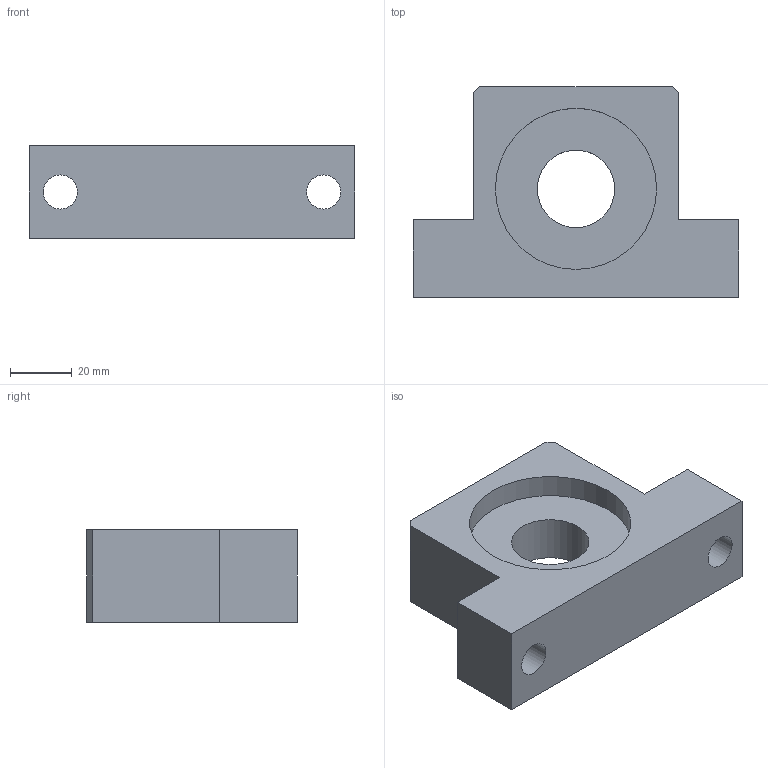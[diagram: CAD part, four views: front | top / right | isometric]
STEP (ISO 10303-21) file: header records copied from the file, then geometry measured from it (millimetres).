
FILE_DESCRIPTION(/* description */ (''),/* implementation_level */ '2;1');
FILE_NAME(/* name */ 'C:\Users\tenki620635\Desktop\官網\圖面\軸承座\3D\setp檔\AF25.stp',/* time_stamp */ '2020-11-20T17:29:34+08:00',/* author */ ('tenki620635'),/* organization */ (''),/* preprocessor_version */ 'ST-DEVELOPER v15.2',/* originating_system */ 'Autodesk Inventor 2014',/* authorisation */ '');
FILE_SCHEMA (('AUTOMOTIVE_DESIGN { 1 0 10303 214 3 1 1 }'));
Length unit declared in the file: millimetre
Products named in the file (1): AF25
Bounding box: 105 x 68 x 30 mm (x, y, z)
Volume: 119799.5 mm3; surface area: 25222.2 mm2
Topology: 1 solids, 1 shells, 19 faces, 47 edges, 32 vertices
Faces by surface type: plane 14, cylinder 5
Full cylindrical faces by diameter (mm): 11 x2, 25 x1, 52 x2
Entity records: 557 total; most frequent: DIRECTION 90, CARTESIAN_POINT 90, ORIENTED_EDGE 80, EDGE_CURVE 40, EDGE_LOOP 32, LINE 30, VECTOR 30, VERTEX_POINT 30
